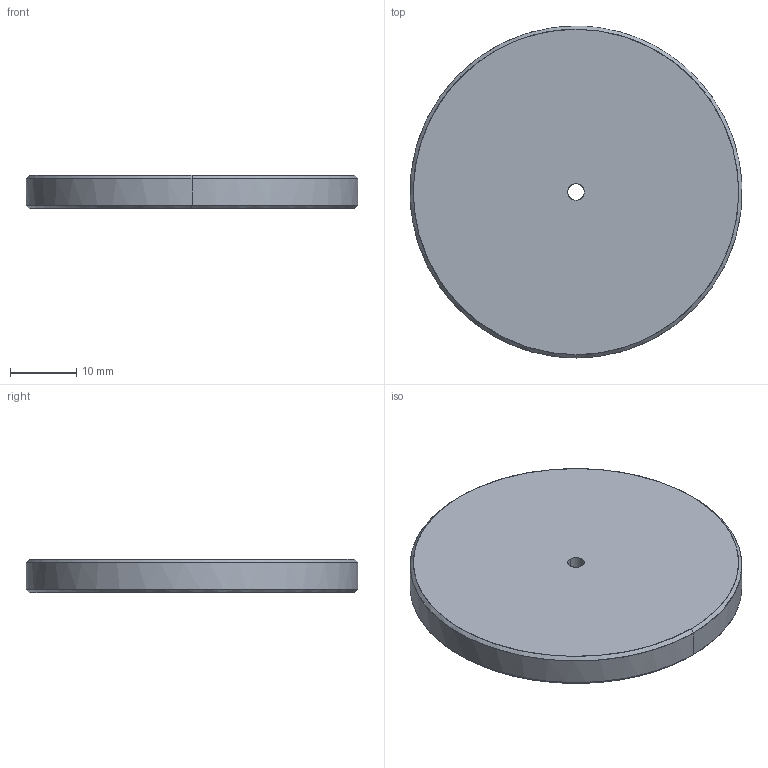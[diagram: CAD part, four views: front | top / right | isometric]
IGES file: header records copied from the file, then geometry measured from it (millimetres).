
Global section: file name: E:\UnigraphicsGraphicData\MISUMI_PRESS-PARTS\IGES\3d_fwss-d50-v2.5-t5.0_00542_r00.igs; native system: NX V5.0; preprocessor: UGS NX IGES V5.0; author: MISUMI; date: 20110105.160701; units: millimetre
Bounding box: 49.94 x 50 x 5 mm (x, y, z)
Surface area: 4649.9 mm2 (no closed solid volume)
Topology: 0 solids, 0 shells, 10 faces, 80 edges, 80 vertices
Faces by surface type: bspline 10
